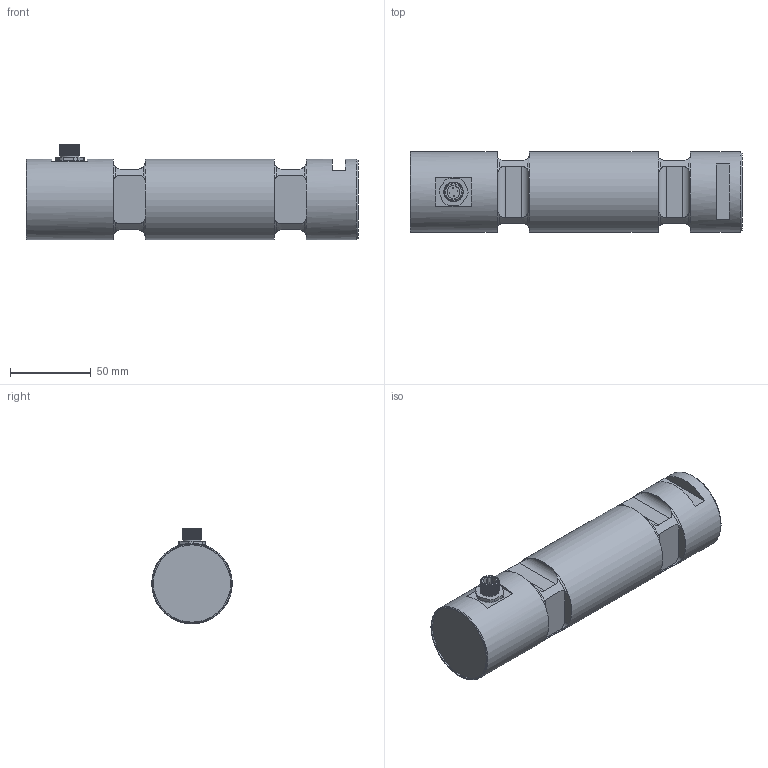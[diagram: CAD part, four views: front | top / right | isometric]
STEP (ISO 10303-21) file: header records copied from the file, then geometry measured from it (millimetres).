
FILE_DESCRIPTION(/* description */ ('Alibre Inc.'),/* implementation_level */ '2;1');
FILE_NAME(/* name */ 'export-7B582390-0F55-47CB-950B-F972646FF22C',/* time_stamp */ '2019-01-08T13:29:34+01:00',/* author */ (''),/* organization */ (''),/* preprocessor_version */ 'ST-DEVELOPER v17',/* originating_system */ 'Alibre',/* authorisation */ '');
FILE_SCHEMA (('CONFIG_CONTROL_DESIGN'));
Length unit declared in the file: millimetre
Products named in the file (6): ID_1; ID_2; ID_3
Bounding box: 206 x 50 x 59.32 mm (x, y, z)
Volume: 380053.5 mm3; surface area: 41745.6 mm2
Topology: 8 solids, 8 shells, 198 faces, 450 edges, 275 vertices
Faces by surface type: plane 82, cylinder 70, bspline 23, torus 17, cone 6
Full cylindrical faces by diameter (mm): 0.5 x8, 8 x2, 10 x3, 11.5 x1, 12 x1, 13 x1, 48 x1, 50 x3
Entity records: 18865 total; most frequent: CARTESIAN_POINT 14721, ORIENTED_EDGE 834, DIRECTION 504, EDGE_CURVE 412, VERTEX_POINT 265, FACE_BOUND 240, EDGE_LOOP 239, AXIS2_PLACEMENT_3D 222
